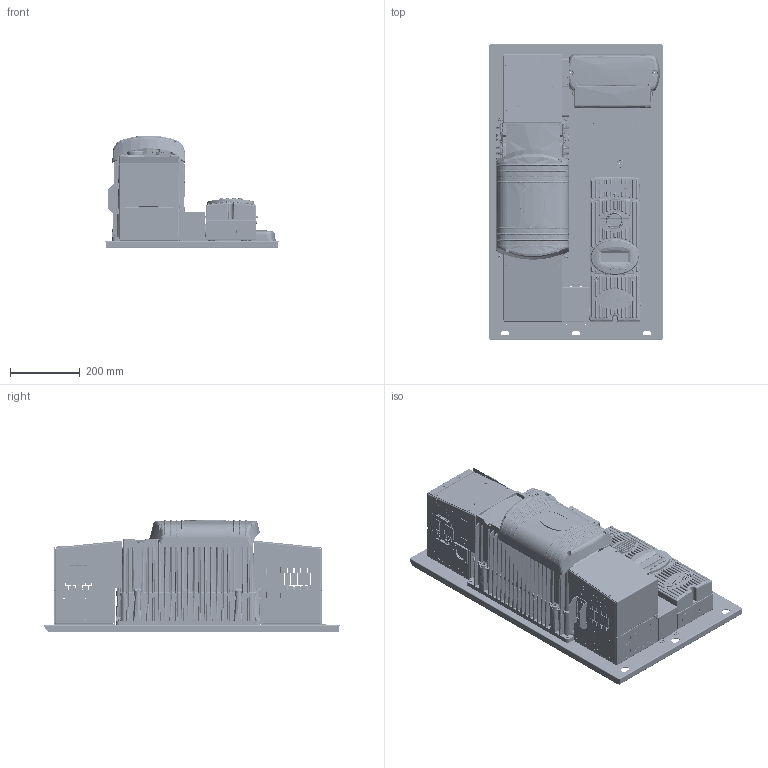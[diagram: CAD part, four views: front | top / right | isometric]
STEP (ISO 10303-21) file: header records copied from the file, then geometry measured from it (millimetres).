
FILE_DESCRIPTION (( 'STEP AP203' ), '1' );
FILE_NAME ('FP1.STEP', '2019-05-23T20:52:50', ( '' ), ( '' ), 'SwSTEP 2.0', 'SolidWorks 2017', '' );
FILE_SCHEMA (( 'CONFIG_CONTROL_DESIGN' ));
Products named in the file (1): FP1
Bounding box: 500.02 x 849.27 x 322.44 mm (x, y, z)
Surface area: 4550476.1 mm2 (no closed solid volume)
Topology: 0 solids, 158 shells, 17484 faces, 47224 edges, 29882 vertices
Faces by surface type: plane 7179, cylinder 5225, bspline 3623, cone 807, torus 439, sphere 211
Entity records: 924737 total; most frequent: CARTESIAN_POINT 524979, ORIENTED_EDGE 91190, DIRECTION 66928, EDGE_CURVE 46741, VERTEX_POINT 29880, VECTOR 23686, LINE 23686, AXIS2_PLACEMENT_3D 21621
